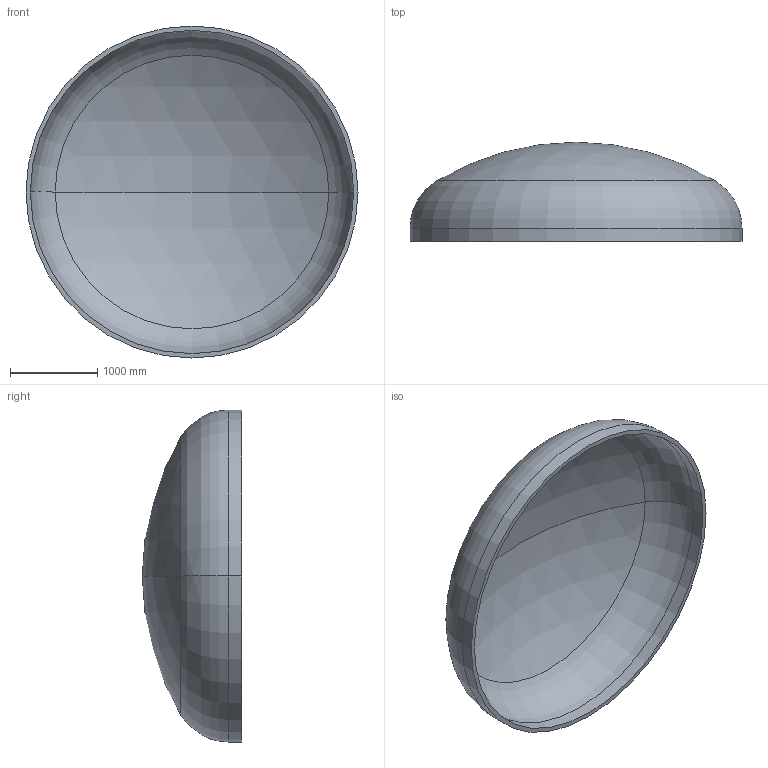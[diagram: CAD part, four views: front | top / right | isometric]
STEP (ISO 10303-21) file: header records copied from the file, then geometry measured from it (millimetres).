
FILE_DESCRIPTION (( 'STEP AP203' ), '1' );
FILE_NAME ('DIN 28013 Korbbogenform_-_Boden DIN 28013 - 3800 x 150 - I - s=50.step', '2016-07-01T21:29:46', ( '' ), ( '' ), 'SwSTEP 2.0', 'SolidWorks 2013', '' );
FILE_SCHEMA (( 'CONFIG_CONTROL_DESIGN' ));
Length unit declared in the file: millimetre
Products named in the file (1): DIN 28013 Korbbogenform_-_Boden DIN 28013 - 3800 x 150 - I - s=50
Bounding box: 3800 x 1136 x 3800 mm (x, y, z)
Volume: 860131922.7 mm3; surface area: 34999549.4 mm2
Topology: 1 solids, 1 shells, 13 faces, 24 edges, 14 vertices
Faces by surface type: torus 4, cylinder 4, sphere 4, plane 1
Entity records: 407 total; most frequent: DIRECTION 72, CARTESIAN_POINT 52, ORIENTED_EDGE 48, AXIS2_PLACEMENT_3D 34, EDGE_CURVE 24, CIRCLE 20, VERTEX_POINT 14, EDGE_LOOP 14
